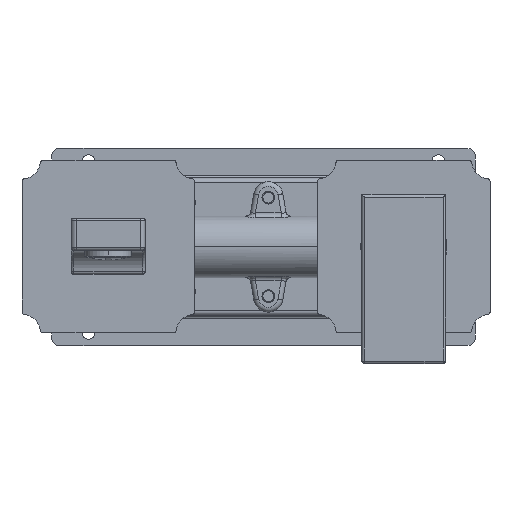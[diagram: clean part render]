
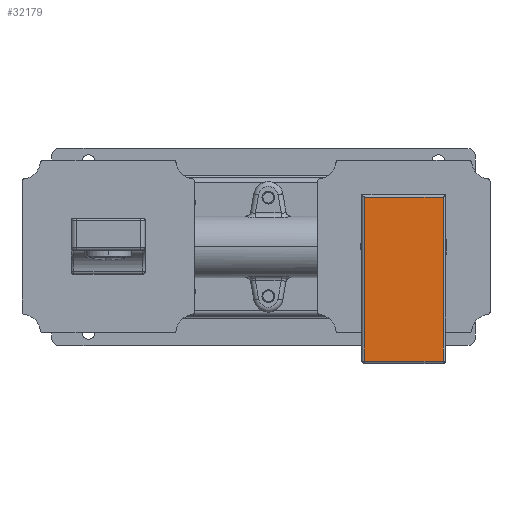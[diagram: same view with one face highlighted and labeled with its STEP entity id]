
A CAD part, top view. The second image highlights one B-rep face of the part: STEP entity #32179.
In plain terms, the highlighted planar face has unit normal (0, 0, 1) as drawn and (1, 0, 0) by its records, which use the part's own axes.
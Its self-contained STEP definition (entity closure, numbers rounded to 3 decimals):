
#137 = CARTESIAN_POINT ( 'NONE',  ( 10., 33.993, 1. ) ) ;
#1983 = VERTEX_POINT ( 'NONE', #5126 ) ;
#2633 = VECTOR ( 'NONE', #27266, 1000. ) ;
#4246 = CARTESIAN_POINT ( 'NONE',  ( 10., 63.493, 33. ) ) ;
#5126 = CARTESIAN_POINT ( 'NONE',  ( 10., -3., 1. ) ) ;
#6353 = DIRECTION ( 'NONE',  ( 0., -1., 0. ) ) ;
#6428 = DIRECTION ( 'NONE',  ( -1., 0., 0. ) ) ;
#7709 = CARTESIAN_POINT ( 'NONE',  ( 10., 33.993, 34. ) ) ;
#8272 = VECTOR ( 'NONE', #27185, 1000. ) ;
#9327 = FACE_OUTER_BOUND ( 'NONE', #33199, .T. ) ;
#10615 = PLANE ( 'NONE',  #20586 ) ;
#12064 = DIRECTION ( 'NONE',  ( 0., 0., 1. ) ) ;
#12124 = CARTESIAN_POINT ( 'NONE',  ( 10., -4., 33. ) ) ;
#12933 = CARTESIAN_POINT ( 'NONE',  ( 10., -3., 33. ) ) ;
#14957 = LINE ( 'NONE', #137, #2633 ) ;
#15085 = CARTESIAN_POINT ( 'NONE',  ( 10., 63.493, 1. ) ) ;
#17201 = ORIENTED_EDGE ( 'NONE', *, *, #28630, .T. ) ;
#17858 = LINE ( 'NONE', #29595, #33772 ) ;
#17975 = LINE ( 'NONE', #23549, #8272 ) ;
#19271 = EDGE_CURVE ( 'NONE', #36671, #37000, #17858, .T. ) ;
#20586 = AXIS2_PLACEMENT_3D ( 'NONE', #7709, #6428, #28287 ) ;
#21002 = LINE ( 'NONE', #12124, #26364 ) ;
#21181 = ORIENTED_EDGE ( 'NONE', *, *, #31624, .T. ) ;
#21326 = VERTEX_POINT ( 'NONE', #12933 ) ;
#23549 = CARTESIAN_POINT ( 'NONE',  ( 10., -3., 0. ) ) ;
#26364 = VECTOR ( 'NONE', #6353, 1000. ) ;
#26685 = EDGE_CURVE ( 'NONE', #37000, #21326, #21002, .T. ) ;
#27185 = DIRECTION ( 'NONE',  ( 0., 0., -1. ) ) ;
#27191 = ORIENTED_EDGE ( 'NONE', *, *, #19271, .T. ) ;
#27266 = DIRECTION ( 'NONE',  ( 0., 1., 0. ) ) ;
#28287 = DIRECTION ( 'NONE',  ( 0., 0., 1. ) ) ;
#28630 = EDGE_CURVE ( 'NONE', #1983, #36671, #14957, .T. ) ;
#29595 = CARTESIAN_POINT ( 'NONE',  ( 10., 63.493, 34. ) ) ;
#31624 = EDGE_CURVE ( 'NONE', #21326, #1983, #17975, .T. ) ;
#32179 = ADVANCED_FACE ( 'NONE', ( #9327 ), #10615, .F. ) ;
#33199 = EDGE_LOOP ( 'NONE', ( #33528, #21181, #17201, #27191 ) ) ;
#33528 = ORIENTED_EDGE ( 'NONE', *, *, #26685, .T. ) ;
#33772 = VECTOR ( 'NONE', #12064, 1000. ) ;
#36671 = VERTEX_POINT ( 'NONE', #15085 ) ;
#37000 = VERTEX_POINT ( 'NONE', #4246 ) ;
